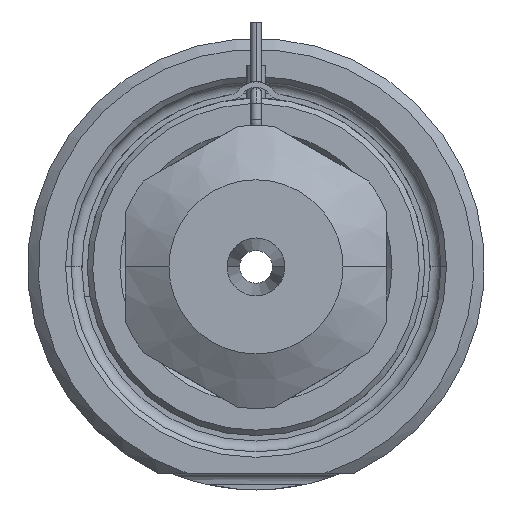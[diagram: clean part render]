
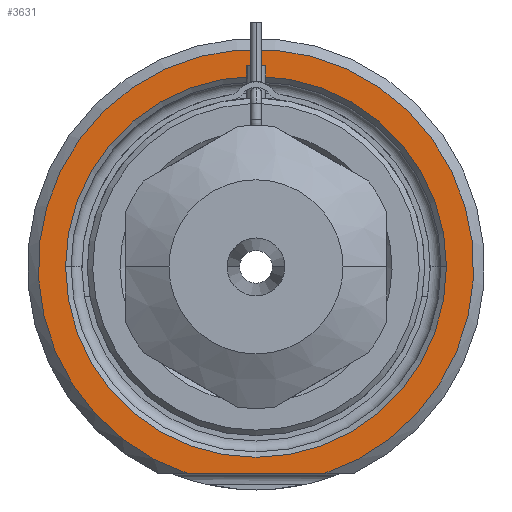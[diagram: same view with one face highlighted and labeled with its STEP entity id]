
A CAD part, front view. The second image highlights one B-rep face of the part: STEP entity #3631.
In plain terms, the highlighted planar face has unit normal (0, -1, 0).
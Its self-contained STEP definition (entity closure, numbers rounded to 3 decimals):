
#698=DIRECTION('',(1.,0.,0.));
#699=VECTOR('',#698,12.49);
#700=CARTESIAN_POINT('',(-6.245,0.,-19.));
#701=LINE('',#700,#699);
#702=CARTESIAN_POINT('',(0.,0.,0.));
#703=DIRECTION('',(0.,1.,0.));
#704=DIRECTION('',(-1.,0.,0.));
#705=AXIS2_PLACEMENT_3D('',#702,#703,#704);
#707=CARTESIAN_POINT('',(0.,0.,0.));
#708=DIRECTION('',(0.,1.,0.));
#709=DIRECTION('',(1.,0.,0.));
#710=AXIS2_PLACEMENT_3D('',#707,#708,#709);
#816=CARTESIAN_POINT('',(0.,0.,0.));
#817=DIRECTION('',(0.,-1.,0.));
#818=DIRECTION('',(0.312,0.,-0.95));
#819=AXIS2_PLACEMENT_3D('',#816,#817,#818);
#2454=CARTESIAN_POINT('',(-17.5,0.,0.));
#2455=CARTESIAN_POINT('',(17.5,0.,0.));
#2456=VERTEX_POINT('',#2454);
#2457=VERTEX_POINT('',#2455);
#2498=CARTESIAN_POINT('',(-6.245,0.,-19.));
#2499=CARTESIAN_POINT('',(6.245,0.,-19.));
#2500=VERTEX_POINT('',#2498);
#2501=VERTEX_POINT('',#2499);
#3615=CARTESIAN_POINT('',(0.,0.,0.));
#3616=DIRECTION('',(0.,-1.,0.));
#3617=DIRECTION('',(1.,0.,0.));
#3618=AXIS2_PLACEMENT_3D('',#3615,#3616,#3617);
#3619=PLANE('',#3618);
#3621=ORIENTED_EDGE('',*,*,#3620,.F.);
#3623=ORIENTED_EDGE('',*,*,#3622,.F.);
#3624=EDGE_LOOP('',(#3621,#3623));
#3625=FACE_OUTER_BOUND('',#3624,.F.);
#3626=ORIENTED_EDGE('',*,*,#3605,.F.);
#3628=ORIENTED_EDGE('',*,*,#3627,.F.);
#3629=EDGE_LOOP('',(#3626,#3628));
#3630=FACE_BOUND('',#3629,.F.);
#3631=ADVANCED_FACE('',(#3625,#3630),#3619,.T.);
#706=CIRCLE('',#705,17.5);
#711=CIRCLE('',#710,17.5);
#820=CIRCLE('',#819,20.);
#3605=EDGE_CURVE('',#2456,#2457,#706,.T.);
#3620=EDGE_CURVE('',#2500,#2501,#701,.T.);
#3622=EDGE_CURVE('',#2501,#2500,#820,.T.);
#3627=EDGE_CURVE('',#2457,#2456,#711,.T.);
